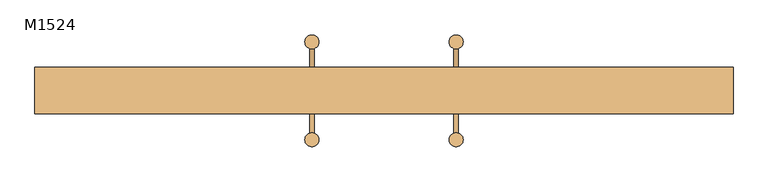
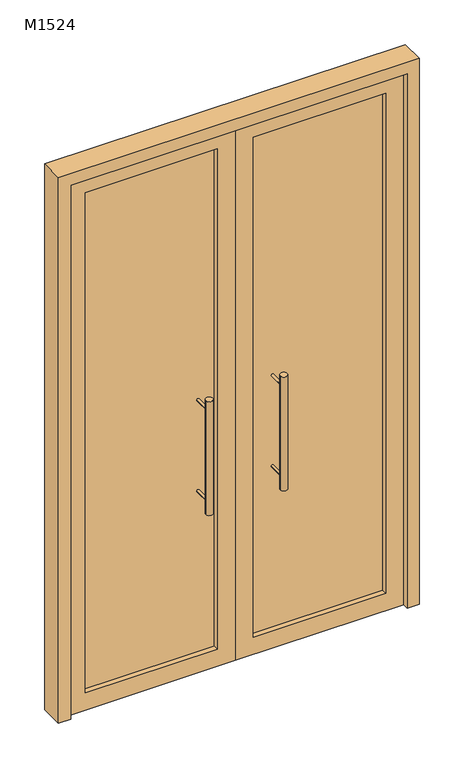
"""IFC4 building model written with IfcOpenShell, lengths in millimetres: door geometry, 双面嵌板玻璃门 : M1524."""

from ifc_helpers import new_model, si_unit, point, frame, frame_2d, origin, place, context, project, spatial, polyline, circle_curve, trimmed, segment, composite_curve, outline, extrude, source, transform, mapped, element, save


def m1524_b04c4a10(model_context):
    return source(origin(), model_context, "Body", "SweptSolid", [
        extrude(outline(composite_curve([segment(trimmed(circle_curve(frame_2d((155.0, 105.0)), 15.0), [point((140.0, 105.0))], [point((170.0, 105.0))], False, "CARTESIAN"), True, "CONTINUOUS"), segment(trimmed(circle_curve(frame_2d((155.0, 105.0)), 15.0), [point((170.0, 105.0))], [point((140.0, 105.0))], False, "CARTESIAN"), True, "CONTINUOUS")], self_intersect=False)), frame((0.0, 0.0, 750.0), z_axis=(0.0, 0.0, 1.0), x_axis=(1.0, 0.0, 0.0)), (0.0, 0.0, 1.0), 500.0),
        extrude(outline(composite_curve([segment(trimmed(circle_curve(frame_2d((1200.0, 155.0)), 5.0), [point((1200.0, 150.0))], [point((1200.0, 160.0))], False, "CARTESIAN"), True, "CONTINUOUS"), segment(trimmed(circle_curve(frame_2d((1200.0, 155.0)), 5.0), [point((1200.0, 160.0))], [point((1200.0, 150.0))], False, "CARTESIAN"), True, "CONTINUOUS")], self_intersect=False)), frame((0.0, 25.0, 0.0), z_axis=(0.0, 1.0, 0.0), x_axis=(0.0, 0.0, 1.0)), (0.0, 0.0, 1.0), 80.0),
        extrude(outline(composite_curve([segment(trimmed(circle_curve(frame_2d((800.0, 155.0)), 5.0), [point((800.0, 150.0))], [point((800.0, 160.0))], False, "CARTESIAN"), True, "CONTINUOUS"), segment(trimmed(circle_curve(frame_2d((800.0, 155.0)), 5.0), [point((800.0, 160.0))], [point((800.0, 150.0))], False, "CARTESIAN"), True, "CONTINUOUS")], self_intersect=False)), frame((0.0, 25.0, 0.0), z_axis=(0.0, 1.0, 0.0), x_axis=(0.0, 0.0, 1.0)), (0.0, 0.0, 1.0), 80.0),
        extrude(outline(composite_curve([segment(trimmed(circle_curve(frame_2d((1200.0, 155.0)), 5.0), [point((1200.0, 150.0))], [point((1200.0, 160.0))], False, "CARTESIAN"), True, "CONTINUOUS"), segment(trimmed(circle_curve(frame_2d((1200.0, 155.0)), 5.0), [point((1200.0, 160.0))], [point((1200.0, 150.0))], False, "CARTESIAN"), True, "CONTINUOUS")], self_intersect=False)), frame((0.0, -105.0, 0.0), z_axis=(0.0, 1.0, 0.0), x_axis=(0.0, 0.0, 1.0)), (0.0, 0.0, 1.0), 80.0),
        extrude(outline(composite_curve([segment(trimmed(circle_curve(frame_2d((800.0, 155.0)), 5.0), [point((800.0, 150.0))], [point((800.0, 160.0))], False, "CARTESIAN"), True, "CONTINUOUS"), segment(trimmed(circle_curve(frame_2d((800.0, 155.0)), 5.0), [point((800.0, 160.0))], [point((800.0, 150.0))], False, "CARTESIAN"), True, "CONTINUOUS")], self_intersect=False)), frame((0.0, -105.0, 0.0), z_axis=(0.0, 1.0, 0.0), x_axis=(0.0, 0.0, 1.0)), (0.0, 0.0, 1.0), 80.0),
        extrude(outline(composite_curve([segment(trimmed(circle_curve(frame_2d((155.0, -105.0)), 15.0), [point((140.0, -105.0))], [point((170.0, -105.0))], False, "CARTESIAN"), True, "CONTINUOUS"), segment(trimmed(circle_curve(frame_2d((155.0, -105.0)), 15.0), [point((170.0, -105.0))], [point((140.0, -105.0))], False, "CARTESIAN"), True, "CONTINUOUS")], self_intersect=False)), frame((0.0, 0.0, 750.0), z_axis=(0.0, 0.0, 1.0), x_axis=(1.0, 0.0, 0.0)), (0.0, 0.0, 1.0), 500.0),
        extrude(outline(composite_curve([segment(trimmed(circle_curve(frame_2d((-155.0, 105.0)), 15.0), [point((-170.0, 105.0))], [point((-140.0, 105.0))], False, "CARTESIAN"), True, "CONTINUOUS"), segment(trimmed(circle_curve(frame_2d((-155.0, 105.0)), 15.0), [point((-140.0, 105.0))], [point((-170.0, 105.0))], False, "CARTESIAN"), True, "CONTINUOUS")], self_intersect=False)), frame((0.0, 0.0, 750.0), z_axis=(0.0, 0.0, 1.0), x_axis=(1.0, 0.0, 0.0)), (0.0, 0.0, 1.0), 500.0),
        extrude(outline(composite_curve([segment(trimmed(circle_curve(frame_2d((1200.0, -155.0)), 5.0), [point((1200.0, -160.0))], [point((1200.0, -150.0))], False, "CARTESIAN"), True, "CONTINUOUS"), segment(trimmed(circle_curve(frame_2d((1200.0, -155.0)), 5.0), [point((1200.0, -150.0))], [point((1200.0, -160.0))], False, "CARTESIAN"), True, "CONTINUOUS")], self_intersect=False)), frame((0.0, 25.0, 0.0), z_axis=(0.0, 1.0, 0.0), x_axis=(0.0, 0.0, 1.0)), (0.0, 0.0, 1.0), 80.0),
        extrude(outline(composite_curve([segment(trimmed(circle_curve(frame_2d((800.0, -155.0)), 5.0), [point((800.0, -160.0))], [point((800.0, -150.0))], False, "CARTESIAN"), True, "CONTINUOUS"), segment(trimmed(circle_curve(frame_2d((800.0, -155.0)), 5.0), [point((800.0, -150.0))], [point((800.0, -160.0))], False, "CARTESIAN"), True, "CONTINUOUS")], self_intersect=False)), frame((0.0, 25.0, 0.0), z_axis=(0.0, 1.0, 0.0), x_axis=(0.0, 0.0, 1.0)), (0.0, 0.0, 1.0), 80.0),
        extrude(outline(composite_curve([segment(trimmed(circle_curve(frame_2d((1200.0, -155.0)), 5.0), [point((1200.0, -160.0))], [point((1200.0, -150.0))], False, "CARTESIAN"), True, "CONTINUOUS"), segment(trimmed(circle_curve(frame_2d((1200.0, -155.0)), 5.0), [point((1200.0, -150.0))], [point((1200.0, -160.0))], False, "CARTESIAN"), True, "CONTINUOUS")], self_intersect=False)), frame((0.0, -105.0, 0.0), z_axis=(0.0, 1.0, 0.0), x_axis=(0.0, 0.0, 1.0)), (0.0, 0.0, 1.0), 80.0),
        extrude(outline(composite_curve([segment(trimmed(circle_curve(frame_2d((800.0, -155.0)), 5.0), [point((800.0, -160.0))], [point((800.0, -150.0))], False, "CARTESIAN"), True, "CONTINUOUS"), segment(trimmed(circle_curve(frame_2d((800.0, -155.0)), 5.0), [point((800.0, -150.0))], [point((800.0, -160.0))], False, "CARTESIAN"), True, "CONTINUOUS")], self_intersect=False)), frame((0.0, -105.0, 0.0), z_axis=(0.0, 1.0, 0.0), x_axis=(0.0, 0.0, 1.0)), (0.0, 0.0, 1.0), 80.0),
        extrude(outline(composite_curve([segment(trimmed(circle_curve(frame_2d((-155.0, -105.0)), 15.0), [point((-170.0, -105.0))], [point((-140.0, -105.0))], False, "CARTESIAN"), True, "CONTINUOUS"), segment(trimmed(circle_curve(frame_2d((-155.0, -105.0)), 15.0), [point((-140.0, -105.0))], [point((-170.0, -105.0))], False, "CARTESIAN"), True, "CONTINUOUS")], self_intersect=False)), frame((0.0, 0.0, 750.0), z_axis=(0.0, 0.0, 1.0), x_axis=(1.0, 0.0, 0.0)), (0.0, 0.0, 1.0), 500.0),
        extrude(outline(polyline([(75.0, 2.0), (625.0, 2.0), (625.0, -2.0), (75.0, -2.0), (75.0, 2.0)])), frame((0.0, 0.0, 75.0), z_axis=(0.0, 0.0, 1.0), x_axis=(1.0, 0.0, 0.0)), (0.0, 0.0, 1.0), 2200.0),
        extrude(outline(polyline([(-625.0, 2.0), (-75.0, 2.0), (-75.0, -2.0), (-625.0, -2.0), (-625.0, 2.0)])), frame((0.0, 0.0, 75.0), z_axis=(0.0, 0.0, 1.0), x_axis=(1.0, 0.0, 0.0)), (0.0, 0.0, 1.0), 2200.0),
        extrude(outline(polyline([(2350.0, 0.0), (2350.0, -700.0), (0.0, -700.0), (0.0, 0.0), (2350.0, 0.0)]), holes=[polyline([(2275.0, -625.0), (2275.0, -75.0), (75.0, -75.0), (75.0, -625.0), (2275.0, -625.0)])]), frame((0.0, -25.0, 0.0), z_axis=(0.0, 1.0, 0.0), x_axis=(0.0, 0.0, 1.0)), (0.0, 0.0, 1.0), 50.0),
        extrude(outline(polyline([(2350.0, 0.0), (0.0, 0.0), (0.0, 700.0), (2350.0, 700.0), (2350.0, 0.0)]), holes=[polyline([(2275.0, 625.0), (75.0, 625.0), (75.0, 75.0), (2275.0, 75.0), (2275.0, 625.0)])]), frame((0.0, -25.0, 0.0), z_axis=(0.0, 1.0, 0.0), x_axis=(0.0, 0.0, 1.0)), (0.0, 0.0, 1.0), 50.0),
        extrude(outline(polyline([(2400.0, 750.0), (2400.0, -750.0), (0.0, -750.0), (0.0, -700.0), (2350.0, -700.0), (2350.0, 700.0), (0.0, 700.0), (0.0, 750.0), (2400.0, 750.0)])), frame((0.0, -50.0, 0.0), z_axis=(0.0, 1.0, 0.0), x_axis=(0.0, 0.0, 1.0)), (0.0, 0.0, 1.0), 100.0),
    ])


if __name__ == "__main__":
    model = new_model("IFC4")
    model_context = context("Model", 3, world=origin())
    ifc_project = project(units=[si_unit("LENGTHUNIT", "METRE", prefix="MILLI")], contexts=[model_context])
    site = spatial("IfcSite", under=ifc_project)
    building = spatial("IfcBuilding", under=site)
    placement = place(None, origin())
    m1524_shape = m1524_b04c4a10(model_context)
    element("IfcDoor", 1, ObjectType="双面嵌板玻璃门 : M1524", at=placement, inside=building, context=model_context, shape_type="MappedRepresentation", body=[
        mapped(m1524_shape, transform((0.0, 0.0, 0.0), x_axis=(1.0, 0.0, 0.0), y_axis=(0.0, 1.0, 0.0), z_axis=(0.0, 0.0, 1.0))),
    ])
    save(model, "model.ifc")
